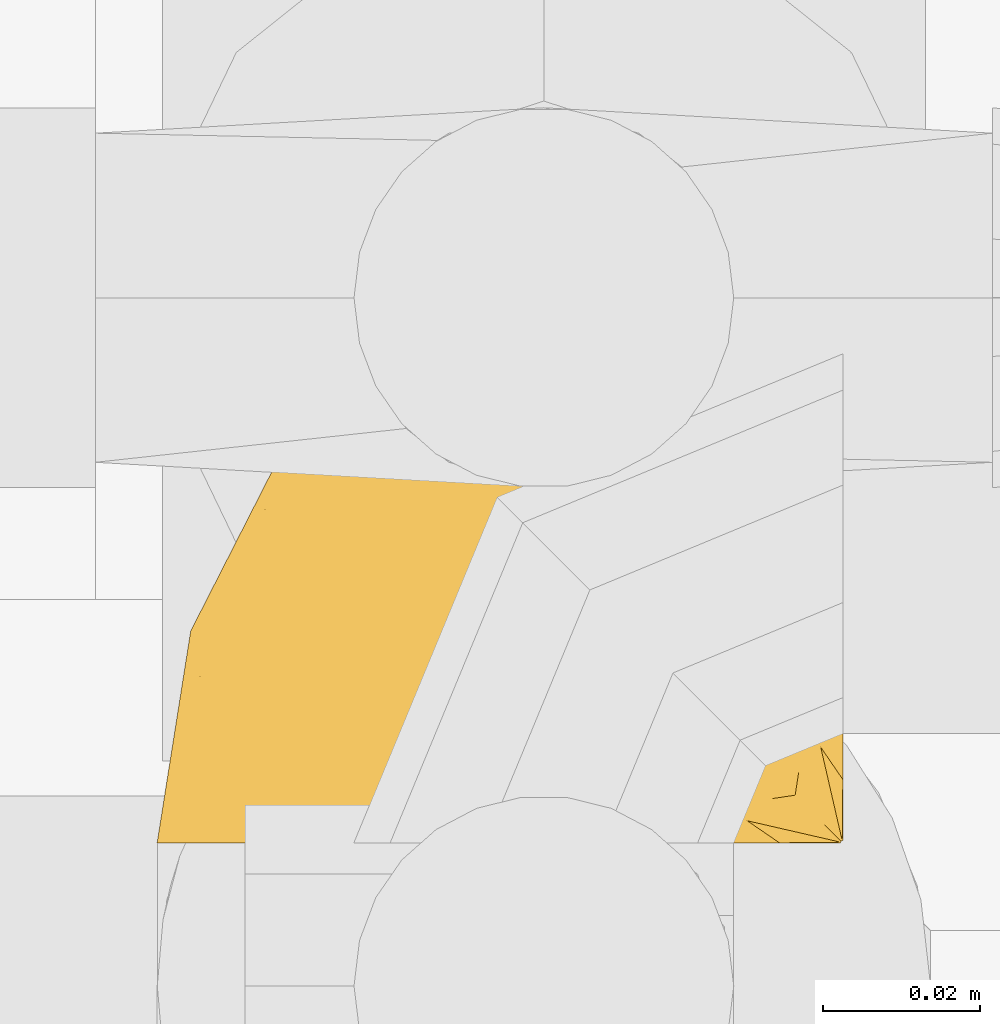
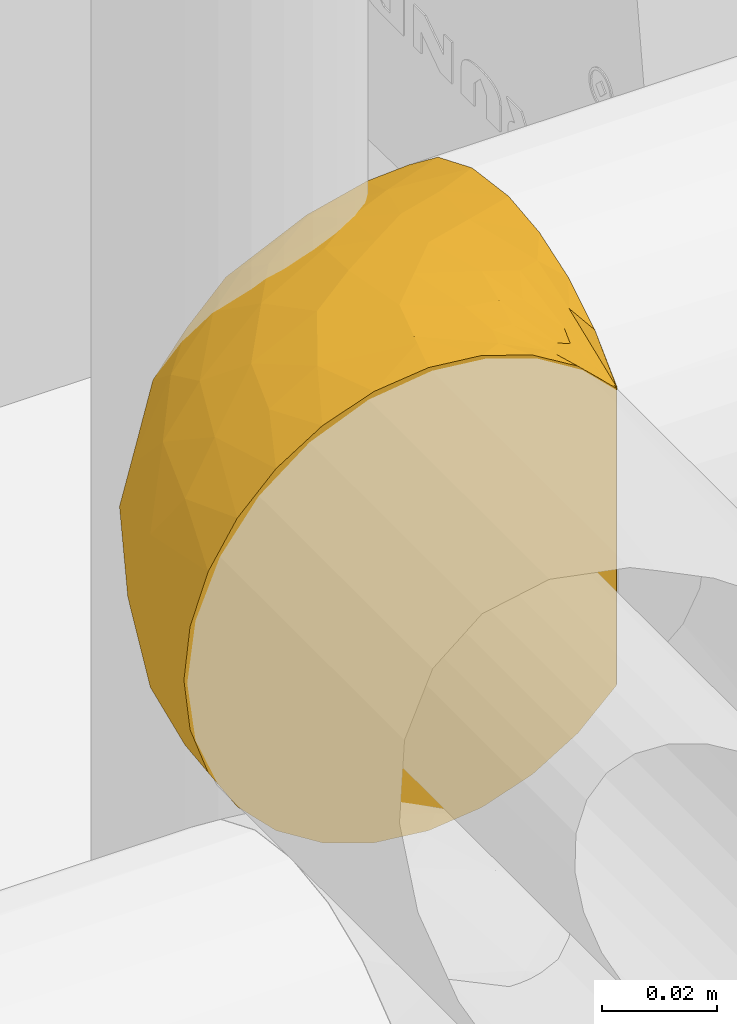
# One storey, part 42 of 94: 1 covering.
"""IFC2X3 building model written with IfcOpenShell, lengths in millimetres."""

from ifc_helpers import new_model, entity, si_unit, converted_unit, derived_unit, direction, frame, origin, place, context, subcontext, project, spatial, faceted_brep, material, element, save


model = new_model("IFC2X3")

# Units and contexts
model_context = context("Model", 3, precision=0.01, world=origin(), true_north=direction((6.123031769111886e-17, 1.0)))
body_context = subcontext(model_context, "Body", "Model", "MODEL_VIEW")
ifc_project = project(units=[si_unit("LENGTHUNIT", "METRE", prefix="MILLI"), si_unit("AREAUNIT", "SQUARE_METRE"), si_unit("VOLUMEUNIT", "CUBIC_METRE"), converted_unit("PLANEANGLEUNIT", "DEGREE", entity("IfcRatioMeasure", 0.017453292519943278), si_unit("PLANEANGLEUNIT", "RADIAN"), dimensions=[0, 0, 0, 0, 0, 0, 0]), si_unit("MASSUNIT", "GRAM", prefix="KILO"), derived_unit("MASSDENSITYUNIT", [(si_unit("MASSUNIT", "GRAM", prefix="KILO"), 1), (si_unit("LENGTHUNIT", "METRE"), -3)]), derived_unit("IONCONCENTRATIONUNIT", [(si_unit("MASSUNIT", "GRAM", prefix="KILO"), 1), (si_unit("LENGTHUNIT", "METRE"), -3)]), derived_unit("MOMENTOFINERTIAUNIT", [(si_unit("LENGTHUNIT", "METRE"), 4)]), si_unit("TIMEUNIT", "SECOND"), si_unit("FREQUENCYUNIT", "HERTZ"), si_unit("THERMODYNAMICTEMPERATUREUNIT", "DEGREE_CELSIUS"), derived_unit("THERMALTRANSMITTANCEUNIT", [(si_unit("MASSUNIT", "GRAM", prefix="KILO"), 1), (si_unit("THERMODYNAMICTEMPERATUREUNIT", "KELVIN"), -1), (si_unit("TIMEUNIT", "SECOND"), -3)]), derived_unit("THERMALCONDUCTANCEUNIT", [(si_unit("MASSUNIT", "GRAM", prefix="KILO"), 1), (si_unit("THERMODYNAMICTEMPERATUREUNIT", "KELVIN"), -1), (si_unit("TIMEUNIT", "SECOND"), -3), (si_unit("LENGTHUNIT", "METRE"), 1)]), derived_unit("VOLUMETRICFLOWRATEUNIT", [(si_unit("LENGTHUNIT", "METRE"), 3), (si_unit("TIMEUNIT", "SECOND"), -1)]), derived_unit("MASSFLOWRATEUNIT", [(si_unit("MASSUNIT", "GRAM", prefix="KILO"), 1), (si_unit("TIMEUNIT", "SECOND"), -1)]), derived_unit("ROTATIONALFREQUENCYUNIT", [(si_unit("TIMEUNIT", "SECOND"), -1)]), si_unit("ELECTRICCURRENTUNIT", "AMPERE"), si_unit("ELECTRICVOLTAGEUNIT", "VOLT"), si_unit("POWERUNIT", "WATT"), si_unit("FORCEUNIT", "NEWTON", prefix="KILO"), si_unit("ILLUMINANCEUNIT", "LUX"), si_unit("LUMINOUSFLUXUNIT", "LUMEN"), si_unit("LUMINOUSINTENSITYUNIT", "CANDELA"), derived_unit("USERDEFINED", [(si_unit("MASSUNIT", "GRAM", prefix="KILO"), -1), (si_unit("LENGTHUNIT", "METRE"), -2), (si_unit("TIMEUNIT", "SECOND"), 3), (si_unit("LUMINOUSFLUXUNIT", "LUMEN"), 1)]), derived_unit("USERDEFINED", [(si_unit("MASSUNIT", "GRAM", prefix="KILO"), 1), (si_unit("TIMEUNIT", "SECOND"), -3), (si_unit("LENGTHUNIT", "METRE"), 3), (si_unit("ELECTRICCURRENTUNIT", "AMPERE"), -2)]), derived_unit("SOUNDPOWERUNIT", [(si_unit("MASSUNIT", "GRAM", prefix="KILO"), 1), (si_unit("TIMEUNIT", "SECOND"), -3), (si_unit("LENGTHUNIT", "METRE"), 2)]), derived_unit("SOUNDPRESSUREUNIT", [(si_unit("MASSUNIT", "GRAM", prefix="KILO"), 1), (si_unit("LENGTHUNIT", "METRE"), -1), (si_unit("TIMEUNIT", "SECOND"), -2)]), derived_unit("LINEARVELOCITYUNIT", [(si_unit("LENGTHUNIT", "METRE"), 1), (si_unit("TIMEUNIT", "SECOND"), -1)]), si_unit("PRESSUREUNIT", "PASCAL"), derived_unit("USERDEFINED", [(si_unit("MASSUNIT", "GRAM", prefix="KILO"), 1), (si_unit("LENGTHUNIT", "METRE"), -2), (si_unit("TIMEUNIT", "SECOND"), -2)]), derived_unit("LINEARFORCEUNIT", [(si_unit("MASSUNIT", "GRAM", prefix="KILO"), 1), (si_unit("TIMEUNIT", "SECOND"), -2)]), derived_unit("PLANARFORCEUNIT", [(si_unit("MASSUNIT", "GRAM", prefix="KILO"), 1), (si_unit("LENGTHUNIT", "METRE"), -1), (si_unit("TIMEUNIT", "SECOND"), -2)]), derived_unit("SPECIFICHEATCAPACITYUNIT", [(si_unit("THERMODYNAMICTEMPERATUREUNIT", "KELVIN"), -1), (si_unit("LENGTHUNIT", "METRE"), 2), (si_unit("TIMEUNIT", "SECOND"), -2)]), derived_unit("HEATINGVALUEUNIT", [(si_unit("LENGTHUNIT", "METRE"), 2), (si_unit("TIMEUNIT", "SECOND"), -2)]), derived_unit("VAPORPERMEABILITYUNIT", [(si_unit("LENGTHUNIT", "METRE"), -1), (si_unit("TIMEUNIT", "SECOND"), 1)]), derived_unit("DYNAMICVISCOSITYUNIT", [(si_unit("MASSUNIT", "GRAM", prefix="KILO"), 1), (si_unit("TIMEUNIT", "SECOND"), -1), (si_unit("LENGTHUNIT", "METRE"), -1)]), derived_unit("THERMALEXPANSIONCOEFFICIENTUNIT", [(si_unit("THERMODYNAMICTEMPERATUREUNIT", "KELVIN"), -1)]), derived_unit("MODULUSOFELASTICITYUNIT", [(si_unit("MASSUNIT", "GRAM", prefix="KILO"), 1), (si_unit("LENGTHUNIT", "METRE"), -1), (si_unit("TIMEUNIT", "SECOND"), -2)]), derived_unit("ISOTHERMALMOISTURECAPACITYUNIT", [(si_unit("LENGTHUNIT", "METRE"), 3), (si_unit("MASSUNIT", "GRAM", prefix="KILO"), -1)]), derived_unit("MOISTUREDIFFUSIVITYUNIT", [(si_unit("TIMEUNIT", "SECOND"), -1), (si_unit("LENGTHUNIT", "METRE"), 2)])], contexts=[model_context])

# Site, building, storey
site_placement = place(None, origin())
site = spatial("IfcSite", under=ifc_project, at=site_placement, Name="Default", CompositionType="ELEMENT")
building_placement = place(site_placement, origin())
building = spatial("IfcBuilding", under=site, at=building_placement, CompositionType="ELEMENT")
storey_placement = place(building_placement, origin())
storey = spatial("IfcBuildingStorey", under=building, at=storey_placement, Name="Niveau 0", CompositionType="ELEMENT", Elevation=0.0)

# Covering
ifc_material = material(Name="Isolation - Laine minérale")
covering_placement = place(storey_placement, frame((-6334.980124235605, 9292.058324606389, 528.1237673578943)))
element("IfcCovering", 1, at=covering_placement, inside=storey, material=ifc_material, Name="Isolation des canalisations:Laine minérale", ObjectType="Isolation des canalisations:Laine minérale", PredefinedType="INSULATION", context=body_context, shape_type="Brep", body=[
    faceted_brep([(88.43165280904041, 1.5956332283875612, 19.194373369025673), (88.43165280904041, 1.5956222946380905, 21.638642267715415), (88.43165280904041, 1.595614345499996, 23.41569473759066), (88.43165280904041, 1.5956063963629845, 25.19274720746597), (88.43165280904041, 1.5955996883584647, 26.692340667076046), (88.43165280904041, 1.5955929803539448, 28.19193412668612), (88.43165280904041, 1.595579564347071, 31.19112104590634), (88.43165280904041, 1.5955661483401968, 34.19030796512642), (88.43165280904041, 1.595552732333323, 37.18949488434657), (88.43165280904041, 1.5955393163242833, 40.18868180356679), (88.43165280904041, 1.5955326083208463, 41.6882752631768), (88.43165280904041, 1.5955259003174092, 43.18786872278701), (88.43165280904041, 1.5955149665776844, 45.63213762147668), (88.43165280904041, 1.595504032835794, 48.07640652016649), (88.43165280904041, 1.5954930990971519, 50.5206754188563), (88.43165280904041, 1.5954821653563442, 52.96494431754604), (88.43165280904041, 1.5954712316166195, 55.409213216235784), (88.43165280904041, 1.5954602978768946, 57.85348211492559), (88.43165280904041, 1.5954493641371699, 60.297751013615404), (88.43165280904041, 1.5954384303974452, 62.74201991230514), (88.43165280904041, 1.5954274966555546, 65.18628881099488), (88.43165280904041, 1.5954165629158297, 67.6305577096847), (88.43165280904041, 1.595405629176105, 70.07482660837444), (88.43165280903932, 1.59539469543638, 72.51909550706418), (88.43165280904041, 1.5953837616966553, 74.96336440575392), (88.43165280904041, 1.5953728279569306, 77.40763330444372), (88.43165280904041, 1.5953618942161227, 79.85190220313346), (88.43165280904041, 1.5953509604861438, 82.29617110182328), (80.69235262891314, 1.59531775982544, 89.71827412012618), (71.53113811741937, 1.595292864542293, 95.2836857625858), (61.38390047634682, 1.595277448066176, 98.73008326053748), (50.74527223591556, 1.5952722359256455, 99.89527223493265), (39.80290363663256, 1.5952777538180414, 98.66173150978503), (29.41213456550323, 1.5952940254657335, 95.02415814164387), (20.093252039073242, 1.5953202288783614, 89.16631019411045), (12.312548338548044, 1.5953550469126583, 81.38263886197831), (6.459227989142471, 1.5953967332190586, 72.06354573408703), (2.826140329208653, 1.5954431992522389, 61.675930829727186), (1.5952722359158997, 1.5954920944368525, 50.74527223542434), (2.828812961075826, 1.5955410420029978, 39.80290363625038), (6.466386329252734, 1.5955875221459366, 29.412134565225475), (12.324234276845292, 1.5956292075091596, 20.093252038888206), (20.107905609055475, 1.5956640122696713, 12.312548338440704), (29.426998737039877, 1.5956901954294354, 6.459227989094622), (39.814613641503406, 1.5957064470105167, 2.826140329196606), (50.74527223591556, 1.5957119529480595, 1.5952722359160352), (61.40435822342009, 1.595706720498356, 2.7650014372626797), (71.55257335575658, 1.5956912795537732, 6.21686871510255), (80.70896636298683, 1.595666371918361, 11.785042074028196), (88.74527223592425, 9.642357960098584, 11.777092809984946), (88.74527223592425, 18.799107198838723, 6.211939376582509), (88.74527223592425, 28.94428880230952, 2.7634209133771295), (88.74527223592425, 39.595711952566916, 1.5954422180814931), (88.74527223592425, 52.31666052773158, 3.2702447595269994), (88.74527223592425, 64.17068249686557, 8.180403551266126), (88.74527223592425, 74.34994585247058, 15.991299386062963), (88.74527223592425, 82.16075061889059, 26.170632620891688), (88.74527223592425, 87.07080335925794, 38.024698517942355), (88.74527223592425, 88.74549209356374, 50.74566207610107), (88.74527223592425, 87.07068955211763, 63.466610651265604), (88.74527223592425, 82.16053076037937, 75.32063262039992), (88.74527223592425, 74.34963492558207, 85.49989597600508), (88.74527223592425, 64.17030169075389, 93.31070074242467), (88.74527223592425, 52.316235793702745, 98.22075348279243), (88.74527223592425, 39.5952722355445, 99.89544221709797), (88.74527223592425, 28.943859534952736, 98.72736822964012), (88.74527223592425, 18.798708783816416, 95.27875900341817), (88.74527223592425, 9.642009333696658, 89.71352365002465), (88.74527223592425, 1.9089703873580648, 82.29617250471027), (88.74527223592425, 1.9089813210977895, 79.85190360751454), (88.74527223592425, 1.9089880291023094, 78.35231014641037), (88.74527223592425, 1.9089968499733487, 76.38037896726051), (88.74527223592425, 1.9090056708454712, 74.40844778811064), (88.74527223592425, 1.9090144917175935, 72.43651660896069), (88.74527223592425, 1.909023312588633, 70.46458542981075), (88.74527223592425, 1.9090321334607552, 68.4926542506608), (88.74527223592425, 1.9090409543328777, 66.52072307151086), (88.74527223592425, 1.909049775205, 64.548791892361), (88.74527223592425, 1.9090585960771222, 62.576860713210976), (88.74527223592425, 1.9090674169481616, 60.60492953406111), (88.74527223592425, 1.9090762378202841, 58.63299835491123), (88.74527223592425, 1.9090850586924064, 56.66106717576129), (88.74527223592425, 1.9090938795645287, 54.68913599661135), (88.74527223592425, 1.909102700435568, 52.71720481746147), (88.74527223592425, 1.9091115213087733, 50.74527363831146), (88.74527223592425, 1.9091203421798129, 48.77334245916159), (88.74527223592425, 1.909129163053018, 46.80141128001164), (88.74527223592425, 1.9091379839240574, 44.8294801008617), (88.74527223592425, 1.909146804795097, 42.85754892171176), (88.74527223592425, 1.9091556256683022, 40.88561774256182), (88.74527223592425, 1.9091644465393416, 38.91368656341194), (88.74527223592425, 1.9091732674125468, 36.94175538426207), (88.74527223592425, 1.9091820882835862, 34.969824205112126), (88.74527223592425, 1.9091955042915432, 31.970637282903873), (88.74527223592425, 1.909208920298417, 28.97145036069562), (88.74527223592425, 1.9092198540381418, 26.527181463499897), (88.74527223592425, 1.9092307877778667, 24.082912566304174), (88.74527223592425, 1.9092417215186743, 21.63864366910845), (88.74527223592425, 1.909252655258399, 19.194374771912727), (88.53090125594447, 1.8243939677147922, 53.75334072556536), (88.52210831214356, 1.8158392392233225, 51.83276632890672), (88.521221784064, 1.8148946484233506, 61.47290261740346), (88.5277799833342, 1.8213866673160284, 63.562826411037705), (88.54092532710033, 1.8334108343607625, 48.00102808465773), (88.53506454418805, 1.8281177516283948, 77.2499950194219), (88.49130573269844, 1.7793639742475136, 80.69913916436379), (88.51810292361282, 1.8117496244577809, 42.43807241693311), (88.52350981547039, 1.8173792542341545, 22.860777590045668), (88.52548149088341, 1.8193253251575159, 24.700217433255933), (88.51653277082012, 1.809958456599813, 71.37009051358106), (88.52674320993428, 1.8203400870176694, 73.4038398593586), (88.5046900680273, 1.796710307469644, 44.41000354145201), (88.52964682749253, 1.823283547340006, 37.92772008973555), (88.53317608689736, 1.8265656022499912, 39.8130864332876), (88.51585328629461, 1.809390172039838, 35.95578888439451), (88.52914218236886, 1.822751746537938, 49.75930753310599), (88.52350981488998, 1.8171276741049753, 79.10210656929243), (88.52591800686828, 1.8197697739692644, 21.027575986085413), (88.5366490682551, 1.8296356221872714, 55.67510169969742), (88.5374788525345, 1.830319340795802, 67.50668872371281), (88.53273195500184, 1.8260416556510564, 65.6145480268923), (88.53426299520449, 1.8275843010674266, 34.10458196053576), (88.53370000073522, 1.8269661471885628, 57.55217621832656), (88.53493173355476, 1.8280060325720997, 75.39441322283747), (88.5235098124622, 1.8171133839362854, 82.29617209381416), (88.49487979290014, 1.7479944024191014, 82.29617178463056), (88.46624977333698, 1.6788754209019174, 82.29617147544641), (88.5235098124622, 1.8173956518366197, 19.194374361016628), (88.59262879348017, 1.8460256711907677, 19.194374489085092), (88.66174777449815, 1.8746556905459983, 19.19437461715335), (88.51000647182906, 1.802956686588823, 32.21215825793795), (88.5304248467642, 1.8238767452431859, 69.43559325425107), (88.52246762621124, 1.8162275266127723, 46.24828896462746), (88.52470424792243, 1.8184034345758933, 59.49061435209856), (88.50579329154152, 1.7980892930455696, 29.419252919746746), (88.52744143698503, 1.8212218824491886, 27.4421381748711), (88.66174777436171, 1.874373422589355, 82.29617234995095), (88.59262879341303, 1.8457434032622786, 82.29617222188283), (88.46624977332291, 1.6791576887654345, 19.194373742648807), (88.49487979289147, 1.748276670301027, 19.194374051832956), (85.22080157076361, 23.49564754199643, 4.210381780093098), (85.93611072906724, 13.748164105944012, 8.744234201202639), (81.07807843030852, 22.41020789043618, 4.210376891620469), (83.13289242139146, 10.562925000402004, 9.955623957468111), (79.24527223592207, 37.05019462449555, 1.5954308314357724), (81.28890223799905, 37.597783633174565, 1.5954332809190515), (55.83630689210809, 20.595711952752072, 1.5953572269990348), (66.39553001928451, 16.020583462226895, 2.935562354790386), (67.94040403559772, 9.262105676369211, 4.2134863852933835), (69.7452722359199, 34.50467729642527, 1.595419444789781), (80.67378389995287, 9.668302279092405, 9.405341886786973), (79.78892094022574, 7.2033147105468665, 9.963512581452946), (74.32109358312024, 23.945180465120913, 2.935741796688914), (66.85470593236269, 5.119818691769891, 4.213467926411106), (76.60336361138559, 4.403300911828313, 8.750667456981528), (79.6491193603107, 17.541927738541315, 5.690699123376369), (52.74320051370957, 9.052081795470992, 1.5953055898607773), (53.290789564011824, 11.095711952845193, 1.595314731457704), (73.61168493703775, 16.729286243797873, 4.482687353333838), (62.790789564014, 27.55019462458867, 1.5953883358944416), (73.87988529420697, 12.071980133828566, 5.766104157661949), (75.32913676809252, 47.62438612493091, 2.6119309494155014), (65.91074185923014, 44.0018760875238, 2.6577214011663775), (53.84761415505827, 58.90009596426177, 11.131834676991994), (59.13651173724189, 72.66806857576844, 20.824965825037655), (71.16612245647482, 67.20195085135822, 11.752248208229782), (67.00545271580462, 54.08026527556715, 5.336827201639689), (78.88051287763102, 57.54153052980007, 5.3368431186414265), (37.51978749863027, 72.10132315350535, 50.7455876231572), (61.81444117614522, 84.48006748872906, 50.745642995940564), (53.87520138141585, 80.24827992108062, 40.3400913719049), (25.78494399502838, 13.851842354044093, 9.124298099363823), (36.244182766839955, 15.165712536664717, 4.35110601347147), (29.562882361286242, 60.77795926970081, 32.64721900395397), (30.770681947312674, 55.38617661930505, 23.769149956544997), (15.292222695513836, 43.89766278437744, 35.615507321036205), (71.31385843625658, 86.12674147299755, 41.69651198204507), (47.24102741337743, 73.23199401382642, 30.51013818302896), (43.50389303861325, 64.74773529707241, 21.748712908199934), (75.28985257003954, 77.40408516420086, 20.82498707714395), (67.10273039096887, 82.14747380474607, 31.936743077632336), (37.099200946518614, 52.82949084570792, 15.984575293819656), (44.515176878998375, 48.87936972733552, 9.509914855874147), (33.70477633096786, 40.607616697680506, 11.405943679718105), (44.051694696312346, 28.770383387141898, 3.723653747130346), (30.04408126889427, 27.448851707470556, 9.12435846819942), (18.312338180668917, 19.800740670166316, 15.984429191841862), (5.860696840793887, 28.52632315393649, 50.74539270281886), (7.041406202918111, 22.715914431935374, 34.50544557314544), (25.61446965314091, 42.317849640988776, 18.53611696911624), (15.886915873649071, 33.68416457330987, 24.58833767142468), (10.600409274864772, 16.807310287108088, 24.58826193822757), (38.50378416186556, 71.07885260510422, 39.07616963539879), (25.345180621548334, 60.332749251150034, 42.3464476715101), (53.16350413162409, 33.373756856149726, 2.5633941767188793), (18.239441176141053, 52.820976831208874, 50.745501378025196), (52.69469876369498, 43.46585540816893, 4.72263660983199), (58.175892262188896, 79.20031035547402, 69.5545081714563), (71.70091272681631, 86.245068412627, 59.58548650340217), (54.574333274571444, 80.83824923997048, 59.865780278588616), (42.49805076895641, 72.5283111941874, 66.13821432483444), (75.0623548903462, 83.87411455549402, 69.5545302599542), (24.525141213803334, 35.798725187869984, 85.49347496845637), (25.786342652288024, 48.02055628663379, 78.98879743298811), (15.878231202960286, 33.68747031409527, 76.8875743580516), (37.089792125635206, 52.838513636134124, 85.49317449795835), (35.71336208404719, 59.75607789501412, 78.28692534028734), (36.23150879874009, 15.170028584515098, 97.13485189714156), (70.53804152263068, 45.55142131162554, 98.95323249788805), (69.7452722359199, 34.504237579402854, 99.89541944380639), (79.24527223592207, 37.04975490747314, 99.89543083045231), (7.036299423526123, 22.71482502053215, 66.9718331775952), (69.24086116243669, 76.07722688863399, 80.66622969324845), (30.030512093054, 27.454685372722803, 92.35704263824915), (25.770245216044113, 13.854042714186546, 92.35698134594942), (76.87540408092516, 68.47070426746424, 89.73888858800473), (74.00473445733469, 56.45845023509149, 96.15419720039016), (48.41047025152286, 68.08863573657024, 79.62513620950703), (62.62553049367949, 64.29276614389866, 89.7388707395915), (31.220776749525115, 66.01143704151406, 59.508447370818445), (29.56034539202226, 60.7803343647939, 68.83479342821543), (79.82666983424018, 48.01911630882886, 99.01284269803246), (10.591274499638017, 16.809212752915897, 76.88749909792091), (15.287247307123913, 43.90100575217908, 65.85671179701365), (18.299506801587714, 19.803746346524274, 85.4930250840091), (44.049870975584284, 28.78673638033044, 97.76400666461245), (55.83630689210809, 20.59527223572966, 99.89535722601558), (54.23536248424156, 35.4850715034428, 98.78946111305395), (62.790789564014, 27.549754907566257, 99.89538833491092), (52.74320051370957, 9.051642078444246, 99.89530558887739), (53.290789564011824, 11.09527223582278, 99.89531473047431), (48.41211537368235, 53.162949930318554, 91.50409109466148), (64.14304703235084, 52.05310004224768, 96.4270569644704), (40.10640265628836, 41.40106756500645, 93.15009751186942), (62.890734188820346, 40.72122560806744, 99.08354684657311), (47.67277833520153, 60.916837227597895, 86.09134093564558), (55.38955823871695, 45.940626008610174, 96.67836742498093), (81.0780784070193, 22.40979032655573, 97.28035340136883), (78.26566497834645, 16.4642728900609, 95.72669048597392), (74.32072912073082, 23.94329853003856, 98.55475839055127), (85.22080145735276, 23.49523061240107, 97.28035841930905), (85.93611080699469, 13.74778778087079, 92.7464186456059), (83.13257230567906, 10.564905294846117, 91.5364512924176), (82.68198005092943, 7.656668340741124, 90.11278339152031), (73.61706381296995, 16.723494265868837, 97.00526281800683), (79.75777141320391, 7.216555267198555, 91.5496793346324), (67.91845358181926, 9.26319680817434, 97.2843047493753), (66.83334757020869, 5.119605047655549, 97.28428635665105), (76.58449008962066, 4.405910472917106, 92.75148754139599), (66.3977076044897, 16.018633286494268, 98.55447799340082), (72.78382599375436, 10.692165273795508, 95.80587195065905)], [[[0, 1, 2, 3, 4, 5, 6, 7, 8, 9, 10, 11, 12, 13, 14, 15, 16, 17, 18, 19, 20, 21, 22, 23, 24, 25, 26, 27, 28, 29, 30, 31, 32, 33, 34, 35, 36, 37, 38, 39, 40, 41, 42, 43, 44, 45, 46, 47, 48]], [[49, 50, 51, 52, 53, 54, 55, 56, 57, 58, 59, 60, 61, 62, 63, 64, 65, 66, 67, 68, 69, 70, 71, 72, 73, 74, 75, 76, 77, 78, 79, 80, 81, 82, 83, 84, 85, 86, 87, 88, 89, 90, 91, 92, 93, 94, 95, 96, 97, 98]], [[99, 100, 83]], [[101, 102, 19]], [[85, 103, 86]], [[71, 70, 104]], [[105, 69, 68]], [[11, 10, 106]], [[2, 107, 108]], [[109, 73, 110]], [[12, 11, 111]], [[9, 112, 113]], [[108, 96, 95]], [[114, 92, 91]], [[103, 85, 115]], [[96, 107, 97]], [[116, 70, 69]], [[107, 1, 117]], [[78, 102, 101]], [[99, 118, 16]], [[76, 119, 120]], [[121, 92, 114]], [[112, 90, 113]], [[88, 111, 106]], [[24, 23, 110]], [[107, 96, 108]], [[16, 118, 122]], [[91, 90, 112]], [[21, 120, 119]], [[84, 115, 85]], [[69, 105, 116]], [[71, 123, 72]], [[105, 124, 125, 126, 27]], [[117, 1, 0]], [[25, 116, 26]], [[117, 127, 128, 129, 98]], [[110, 123, 24]], [[26, 116, 105]], [[121, 7, 130]], [[8, 114, 112]], [[114, 8, 7]], [[104, 123, 71]], [[91, 112, 114]], [[104, 116, 25]], [[8, 112, 9]], [[110, 72, 123]], [[20, 120, 21]], [[24, 123, 25]], [[74, 73, 109]], [[131, 75, 74]], [[119, 131, 21]], [[109, 110, 23]], [[109, 23, 22]], [[73, 72, 110]], [[123, 104, 25]], [[116, 104, 70]], [[10, 9, 113]], [[113, 89, 106]], [[87, 86, 132]], [[113, 106, 10]], [[76, 75, 119]], [[132, 111, 87]], [[106, 111, 11]], [[132, 12, 111]], [[87, 111, 88]], [[88, 106, 89]], [[113, 90, 89]], [[131, 119, 75]], [[22, 21, 131]], [[120, 20, 102]], [[131, 109, 22]], [[109, 131, 74]], [[78, 77, 102]], [[77, 120, 102]], [[77, 76, 120]], [[122, 80, 133]], [[20, 19, 102]], [[17, 122, 133]], [[79, 78, 101]], [[18, 101, 19]], [[132, 13, 12]], [[80, 79, 133]], [[13, 103, 115]], [[14, 13, 115]], [[86, 103, 132]], [[100, 115, 84]], [[15, 14, 100]], [[115, 100, 14]], [[16, 15, 99]], [[118, 81, 122]], [[100, 84, 83]], [[99, 82, 118]], [[81, 118, 82]], [[17, 16, 122]], [[82, 99, 83]], [[100, 99, 15]], [[18, 17, 133]], [[122, 81, 80]], [[133, 101, 18]], [[101, 133, 79]], [[134, 94, 93]], [[7, 121, 114]], [[132, 103, 13]], [[121, 93, 92]], [[93, 121, 130]], [[97, 107, 117]], [[108, 4, 3, 2]], [[5, 135, 134]], [[4, 135, 5]], [[134, 135, 94]], [[108, 95, 135]], [[108, 135, 4]], [[135, 95, 94]], [[134, 6, 5]], [[130, 6, 134]], [[26, 105, 27]], [[105, 68, 136, 137, 124]], [[97, 117, 98]], [[117, 0, 138, 139, 127]], [[2, 1, 107]], [[93, 130, 134]], [[6, 130, 7]], [[140, 141, 142]], [[143, 129, 128, 127]], [[51, 144, 145, 52]], [[146, 147, 148]], [[142, 149, 144]], [[150, 127, 151]], [[50, 140, 51]], [[142, 152, 149]], [[51, 140, 144]], [[129, 143, 141]], [[47, 46, 153]], [[148, 151, 154]], [[155, 141, 143]], [[151, 138, 154]], [[47, 153, 154]], [[0, 48, 138]], [[46, 45, 156, 157]], [[152, 155, 158]], [[159, 158, 147]], [[157, 148, 153]], [[47, 154, 48]], [[49, 98, 129]], [[49, 129, 141]], [[141, 50, 49]], [[160, 148, 147]], [[146, 148, 157]], [[138, 48, 154]], [[150, 158, 155]], [[151, 127, 139, 138]], [[141, 140, 50]], [[144, 140, 142]], [[157, 153, 46]], [[154, 153, 148]], [[149, 152, 159]], [[160, 147, 158]], [[147, 146, 159]], [[155, 152, 142]], [[159, 152, 158]], [[127, 150, 143]], [[160, 150, 151]], [[150, 160, 158]], [[148, 160, 151]], [[141, 155, 142]], [[155, 143, 150]], [[156, 45, 44]], [[161, 149, 162]], [[163, 164, 165]], [[166, 167, 161]], [[168, 169, 170]], [[54, 165, 55]], [[171, 172, 43]], [[173, 174, 175]], [[57, 176, 58]], [[173, 177, 178]], [[179, 56, 55]], [[54, 167, 165]], [[170, 180, 177]], [[56, 179, 180]], [[167, 54, 53]], [[181, 182, 183]], [[184, 146, 172]], [[172, 185, 184]], [[186, 185, 171]], [[186, 42, 41]], [[172, 146, 157, 156]], [[172, 44, 43]], [[173, 178, 174]], [[39, 187, 188]], [[189, 186, 190]], [[191, 186, 41]], [[175, 190, 188]], [[168, 192, 193]], [[189, 190, 174]], [[56, 180, 57]], [[41, 40, 191]], [[188, 40, 39]], [[39, 38, 187]], [[190, 191, 188]], [[159, 194, 162]], [[175, 187, 195]], [[177, 180, 164]], [[43, 42, 171]], [[176, 180, 170]], [[156, 44, 172]], [[163, 165, 166]], [[179, 165, 164]], [[53, 52, 145]], [[185, 189, 183]], [[184, 196, 194]], [[188, 191, 40]], [[186, 191, 190]], [[186, 171, 42]], [[172, 171, 185]], [[187, 175, 188]], [[193, 175, 195]], [[196, 163, 166]], [[163, 181, 178]], [[162, 166, 161]], [[184, 185, 183]], [[178, 177, 164]], [[177, 192, 170]], [[177, 173, 192]], [[176, 170, 169]], [[58, 176, 169]], [[57, 180, 176]], [[193, 192, 173]], [[168, 170, 192]], [[175, 193, 173]], [[168, 193, 195]], [[163, 178, 164]], [[184, 194, 146]], [[178, 181, 174]], [[189, 174, 181]], [[175, 174, 190]], [[183, 189, 181]], [[186, 189, 185]], [[182, 181, 163]], [[183, 182, 184]], [[163, 196, 182]], [[184, 182, 196]], [[165, 179, 55]], [[180, 179, 164]], [[161, 53, 145]], [[165, 167, 166]], [[53, 161, 167]], [[161, 145, 144, 149]], [[159, 162, 149]], [[196, 166, 162]], [[162, 194, 196]], [[146, 194, 159]], [[197, 198, 199]], [[58, 169, 198]], [[197, 199, 200]], [[198, 197, 201]], [[202, 203, 204]], [[60, 59, 201]], [[205, 206, 203]], [[33, 32, 207]], [[208, 209, 210]], [[187, 37, 211]], [[201, 212, 60]], [[213, 214, 207]], [[61, 215, 62]], [[62, 215, 216]], [[36, 211, 37]], [[217, 218, 212]], [[219, 220, 200]], [[216, 208, 221]], [[36, 35, 222]], [[62, 216, 63]], [[61, 60, 212]], [[211, 36, 222]], [[38, 37, 187]], [[217, 197, 200]], [[203, 223, 204]], [[35, 34, 224]], [[225, 213, 207]], [[204, 222, 224]], [[34, 33, 214]], [[204, 224, 202]], [[207, 226, 225]], [[227, 226, 228]], [[223, 211, 204]], [[214, 224, 34]], [[202, 224, 213]], [[32, 31, 229]], [[207, 229, 230, 226]], [[211, 223, 187]], [[218, 231, 232]], [[32, 229, 207]], [[205, 233, 231]], [[233, 213, 225]], [[217, 212, 197]], [[215, 212, 218]], [[228, 234, 227]], [[233, 205, 202]], [[208, 234, 209]], [[63, 221, 64]], [[235, 205, 231]], [[207, 214, 33]], [[224, 214, 213]], [[224, 222, 35]], [[211, 222, 204]], [[219, 223, 220]], [[187, 223, 195]], [[227, 233, 225]], [[234, 228, 209]], [[231, 233, 236]], [[221, 208, 210]], [[232, 208, 216]], [[64, 221, 210]], [[216, 221, 63]], [[233, 202, 213]], [[203, 202, 205]], [[205, 235, 206]], [[223, 203, 220]], [[200, 206, 217]], [[220, 203, 206]], [[232, 231, 236]], [[235, 218, 217]], [[212, 215, 61]], [[216, 215, 218]], [[218, 232, 216]], [[234, 232, 236]], [[232, 234, 208]], [[234, 236, 227]], [[233, 227, 236]], [[226, 227, 225]], [[198, 201, 59]], [[212, 201, 197]], [[58, 198, 59]], [[198, 169, 199]], [[169, 168, 199]], [[219, 200, 199]], [[219, 199, 168]], [[200, 220, 206]], [[168, 195, 219]], [[223, 219, 195]], [[218, 235, 231]], [[206, 235, 217]], [[65, 64, 210]], [[209, 237, 210]], [[238, 237, 239]], [[66, 240, 241]], [[242, 136, 241]], [[243, 137, 242]], [[243, 244, 245]], [[65, 240, 66]], [[136, 68, 67]], [[136, 67, 241]], [[246, 226, 230]], [[66, 241, 67]], [[210, 237, 240]], [[29, 247, 30]], [[209, 239, 237]], [[246, 247, 248]], [[30, 247, 230]], [[249, 250, 244]], [[239, 228, 244]], [[226, 246, 249]], [[250, 248, 245]], [[28, 27, 126]], [[237, 242, 241]], [[248, 29, 28]], [[28, 126, 248]], [[30, 230, 229, 31]], [[245, 126, 125]], [[126, 245, 248]], [[243, 124, 137]], [[210, 240, 65]], [[241, 240, 237]], [[248, 247, 29]], [[230, 247, 246]], [[226, 249, 228]], [[238, 239, 244]], [[239, 209, 228]], [[250, 249, 246]], [[228, 249, 244]], [[243, 242, 238]], [[136, 242, 137]], [[124, 243, 125]], [[125, 243, 245]], [[243, 238, 244]], [[237, 238, 242]], [[248, 250, 246]], [[244, 250, 245]]]),
])

save(model, "model.ifc")
